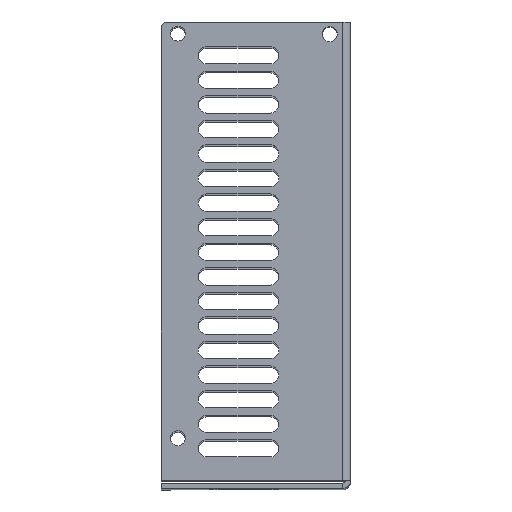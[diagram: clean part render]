
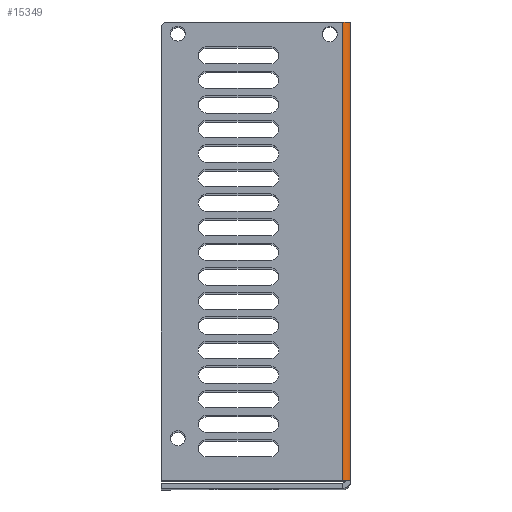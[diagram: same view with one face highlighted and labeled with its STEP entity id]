
A CAD part, top view. The second image highlights one B-rep face of the part: STEP entity #15349.
In plain terms, the highlighted cylindrical face has radius 2.8 mm (diameter 5.6 mm), a partial arc.
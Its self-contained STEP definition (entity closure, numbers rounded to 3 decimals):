
#694 = DIRECTION ( 'NONE',  ( 0., -1., 0. ) ) ;
#895 = EDGE_CURVE ( 'NONE', #4579, #21072, #17214, .T. ) ;
#2057 = AXIS2_PLACEMENT_3D ( 'NONE', #19287, #9533, #20936 ) ;
#2139 = CIRCLE ( 'NONE', #15188, 2.8 ) ;
#3070 = CARTESIAN_POINT ( 'NONE',  ( 66.7, 166.663, 1.8 ) ) ;
#3344 = CARTESIAN_POINT ( 'NONE',  ( 69.5, 166.663, -1. ) ) ;
#3672 = VECTOR ( 'NONE', #13991, 1000. ) ;
#4207 = CARTESIAN_POINT ( 'NONE',  ( 69.5, 0., -1. ) ) ;
#4579 = VERTEX_POINT ( 'NONE', #8713 ) ;
#5413 = VERTEX_POINT ( 'NONE', #3344 ) ;
#6623 = CARTESIAN_POINT ( 'NONE',  ( 69.5, 8.163, -1. ) ) ;
#8011 = LINE ( 'NONE', #4207, #3672 ) ;
#8131 = ORIENTED_EDGE ( 'NONE', *, *, #10451, .F. ) ;
#8327 = CARTESIAN_POINT ( 'NONE',  ( 66.7, 166.663, -1. ) ) ;
#8423 = ORIENTED_EDGE ( 'NONE', *, *, #10334, .F. ) ;
#8713 = CARTESIAN_POINT ( 'NONE',  ( 66.7, 8.163, 1.8 ) ) ;
#8892 = CYLINDRICAL_SURFACE ( 'NONE', #9546, 2.8 ) ;
#8928 = DIRECTION ( 'NONE',  ( 1., 0., 0. ) ) ;
#9129 = VERTEX_POINT ( 'NONE', #6623 ) ;
#9533 = DIRECTION ( 'NONE',  ( 0., -1., 0. ) ) ;
#9546 = AXIS2_PLACEMENT_3D ( 'NONE', #12126, #694, #8928 ) ;
#9660 = ORIENTED_EDGE ( 'NONE', *, *, #18259, .F. ) ;
#9956 = DIRECTION ( 'NONE',  ( 0., 0., -1. ) ) ;
#9961 = DIRECTION ( 'NONE',  ( 0., 1., 0. ) ) ;
#10072 = ORIENTED_EDGE ( 'NONE', *, *, #895, .F. ) ;
#10334 = EDGE_CURVE ( 'NONE', #9129, #4579, #16714, .T. ) ;
#10451 = EDGE_CURVE ( 'NONE', #21072, #5413, #2139, .T. ) ;
#12126 = CARTESIAN_POINT ( 'NONE',  ( 66.7, 8.163, -1. ) ) ;
#13991 = DIRECTION ( 'NONE',  ( 0., -1., 0. ) ) ;
#14590 = EDGE_LOOP ( 'NONE', ( #10072, #8423, #9660, #8131 ) ) ;
#15188 = AXIS2_PLACEMENT_3D ( 'NONE', #8327, #19728, #9956 ) ;
#15349 = ADVANCED_FACE ( 'NONE', ( #19088 ), #8892, .T. ) ;
#16714 = CIRCLE ( 'NONE', #2057, 2.8 ) ;
#17214 = LINE ( 'NONE', #3070, #17723 ) ;
#17723 = VECTOR ( 'NONE', #9961, 1000. ) ;
#18259 = EDGE_CURVE ( 'NONE', #5413, #9129, #8011, .T. ) ;
#19088 = FACE_OUTER_BOUND ( 'NONE', #14590, .T. ) ;
#19287 = CARTESIAN_POINT ( 'NONE',  ( 66.7, 8.163, -1. ) ) ;
#19728 = DIRECTION ( 'NONE',  ( 0., 1., 0. ) ) ;
#19959 = CARTESIAN_POINT ( 'NONE',  ( 66.7, 166.663, 1.8 ) ) ;
#20936 = DIRECTION ( 'NONE',  ( 0., 0., -1. ) ) ;
#21072 = VERTEX_POINT ( 'NONE', #19959 ) ;
